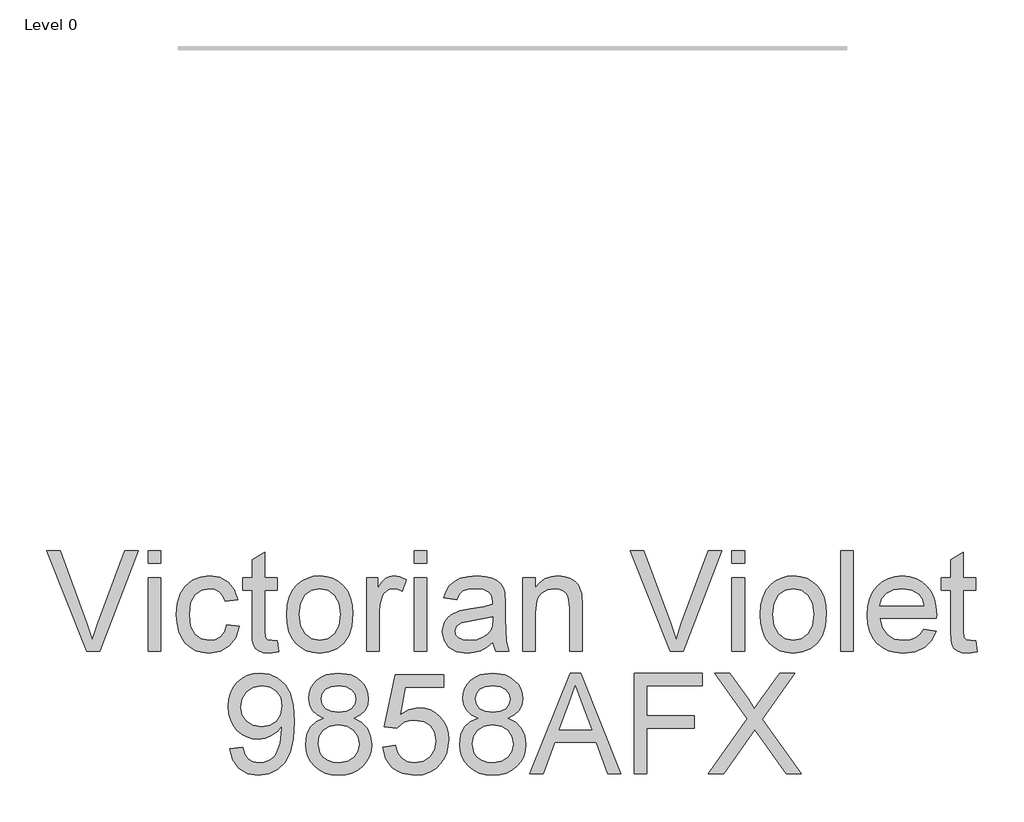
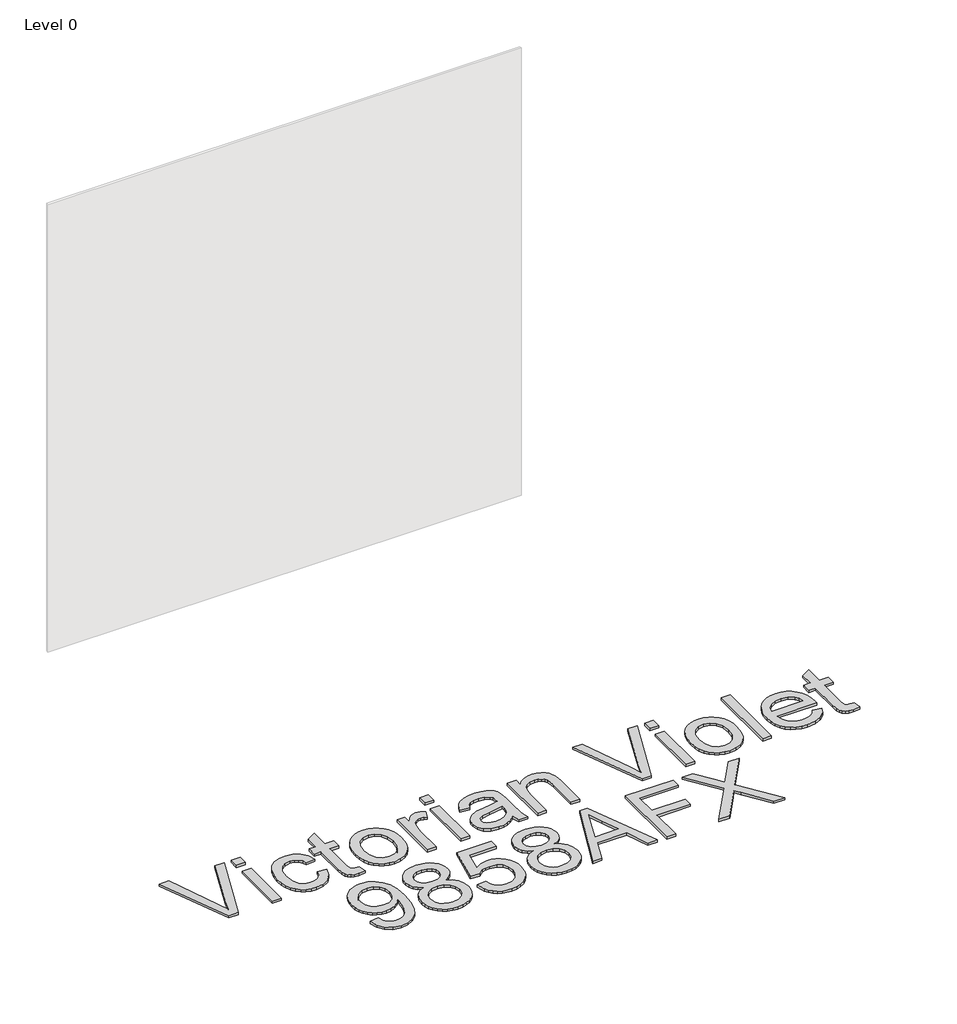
# One storey, part 5 of 10: 1 proxy.
"""IFC4 building model written with IfcOpenShell, lengths in millimetres."""

from ifc_helpers import new_model, si_unit, origin, origin_with_axes, place, context, project, spatial, polyline, outline, extrude, element, save

model = new_model("IFC4")

# Units and contexts
model_context = context("Model", 3, world=origin())
ifc_project = project(units=[si_unit("LENGTHUNIT", "METRE", prefix="MILLI")], contexts=[model_context])

# Site, building, storey
site = spatial("IfcSite", under=ifc_project)
building = spatial("IfcBuilding", under=site)
storey = spatial("IfcBuildingStorey", under=building, Name="Level 0", Elevation=0.0)

# Proxy
placement = place(None, origin())
element("IfcBuildingElementProxy", 1, Name="300mm Arial", ObjectType="300mm Arial", at=placement, inside=storey, context=model_context, shape_type="SweptSolid", body=[
    extrude(outline(polyline([(-724.8541348, -12012.860494), (-844.7836652, -11711.4915635), (-804.4637986, -11711.4915635), (-724.1919472, -11928.6155171), (-707.931563, -11977.5438224), (-691.891908, -11928.6155171), (-611.3993275, -11711.4915635), (-571.0794608, -11711.4915635), (-685.9322197, -12012.860494), (-724.8541348, -12012.860494)])), origin_with_axes(), (0.0, 0.0, 1.0), 10.0),
    extrude(outline(polyline([(-540.7659844, -12012.860494), (-540.7659844, -11791.5426857), (-503.0948681, -11791.5426857), (-503.0948681, -12012.860494), (-540.7659844, -12012.860494)])), origin_with_axes(), (0.0, 0.0, 1.0), 10.0),
    extrude(outline(polyline([(-540.7659844, -11749.1626798), (-540.7659844, -11711.4915635), (-503.0948681, -11711.4915635), (-503.0948681, -11749.1626798), (-540.7659844, -11749.1626798)])), origin_with_axes(), (0.0, 0.0, 1.0), 10.0),
    extrude(outline(polyline([(-305.3215075, -11932.8093718), (-267.6503912, -11937.5182614), (-278.1534222, -11971.0231141), (-297.8902912, -11996.3425924), (-325.0031942, -12012.2626857), (-357.6343272, -12017.5693835), (-378.7622501, -12015.7184772), (-397.7058735, -12010.1657584), (-414.4651977, -12000.9112269), (-429.0402225, -11987.9548829), (-440.8377382, -11971.5404481), (-449.2645352, -11951.9116444), (-454.3206133, -11929.0684718), (-456.0059727, -11903.0109302), (-453.1272961, -11869.4876834), (-444.4912663, -11840.4342028), (-429.9599275, -11816.9725286), (-409.3953239, -11800.2247008), (-384.7932155, -11790.1815223), (-358.149362, -11786.8337961), (-326.3183724, -11791.4323211), (-300.8701354, -11805.2278959), (-282.6139913, -11827.4847566), (-272.3592807, -11857.4671392), (-310.030397, -11862.1760288), (-316.8638051, -11845.7409006), (-327.5047918, -11833.9594797), (-341.364746, -11826.8685543), (-357.8550564, -11824.5049125), (-382.1996474, -11829.1586197), (-401.5226492, -11843.1197414), (-414.1318046, -11867.1424357), (-418.3348564, -11901.9808606), (-414.2237751, -11937.2883351), (-401.8905312, -11961.3938029), (-382.9170173, -11975.2721511), (-358.885126, -11979.8982672), (-339.3781832, -11977.0103936), (-323.3845135, -11968.3467726), (-311.7502454, -11953.6866751), (-305.3215075, -11932.8093718)])), origin_with_axes(), (0.0, 0.0, 1.0), 10.0),
    extrude(outline(polyline([(-154.6370423, -11981.4433716), (-149.9281527, -12013.96414), (-178.1079136, -12017.5693835), (-196.1893136, -12016.005885), (-209.6721888, -12011.3153896), (-219.2003324, -12004.0865084), (-225.4175381, -11994.9078526), (-228.8388407, -11979.1441091), (-229.9792749, -11952.1599648), (-229.9792749, -11829.213802), (-258.2326121, -11829.213802), (-258.2326121, -11791.5426857), (-229.9792749, -11791.5426857), (-229.9792749, -11737.758338), (-192.3081586, -11715.6118419), (-192.3081586, -11791.5426857), (-154.6370423, -11791.5426857), (-154.6370423, -11829.213802), (-192.3081586, -11829.213802), (-192.3081586, -11951.0563188), (-190.3215958, -11970.4804881), (-183.8836609, -11977.3598814), (-171.0445793, -11979.8982672), (-154.6370423, -11981.4433716)])), origin_with_axes(), (0.0, 0.0, 1.0), 10.0),
    extrude(outline(polyline([(-126.383705, -11902.2015898), (-124.3465585, -11873.5389839), (-118.2351189, -11848.8403064), (-108.0493861, -11828.1055575), (-93.7893603, -11811.334737), (-79.4327654, -11800.6155754), (-63.5862485, -11792.9590314), (-46.2498094, -11788.3651049), (-27.4234483, -11786.8337961), (-6.6404149, -11788.698498), (12.1514573, -11794.2926036), (28.9521682, -11803.6161129), (43.7617177, -11816.669026), (55.8489405, -11833.0098843), (64.4826711, -11852.1972296), (69.6629094, -11874.2310619), (71.3896556, -11899.1113811), (68.336235, -11937.1687735), (59.1759733, -11966.1394806), (44.175585, -11987.8353213), (23.6017844, -12004.0681143), (-0.8347771, -12014.1940662), (-27.4234483, -12017.5693835), (-48.5099845, -12015.7115794), (-67.4766006, -12010.1381672), (-84.3232967, -12000.8491468), (-99.0500728, -11987.8445183), (-111.0085369, -11971.3450108), (-119.550297, -11951.5713536), (-124.675353, -11928.5235466), (-126.383705, -11902.2015898)]), holes=[polyline([(-88.7125887, -11902.1280134), (-84.3531871, -11936.2214773), (-71.2749822, -11960.5108861), (-51.5932954, -11975.0514219), (-27.4234483, -11979.8982672), (-3.3639659, -11975.0238308), (16.2809327, -11960.4005215), (29.3591376, -11935.789216), (33.7185393, -11900.950791), (29.3315465, -11867.8506085), (16.1705681, -11843.8922936), (-3.5019216, -11829.3517577), (-27.4234483, -11824.5049125), (-51.5932954, -11829.3333636), (-71.2749822, -11843.8187172), (-84.3531871, -11868.0529436), (-88.7125887, -11902.1280134)])]), origin_with_axes(), (0.0, 0.0, 1.0), 10.0),
    extrude(outline(polyline([(113.7696614, -12012.860494), (113.7696614, -11791.5426857), (146.7318882, -11791.5426857), (146.7318882, -11824.2841833), (158.9087822, -11805.3014723), (170.1291831, -11794.1178596), (181.3863721, -11788.654812), (193.6736308, -11786.8337961), (212.4356125, -11789.7400639), (231.4918999, -11798.4588672), (218.9103356, -11832.2304343), (205.6665838, -11826.4362929), (192.422832, -11824.5049125), (181.17484, -11826.3627165), (171.1224645, -11831.9361288), (163.0014694, -11840.8020848), (157.5476188, -11852.5375205), (152.967488, -11873.5803706), (151.4407777, -11896.5362071), (151.4407777, -12012.860494), (113.7696614, -12012.860494)])), origin_with_axes(), (0.0, 0.0, 1.0), 10.0),
    extrude(outline(polyline([(255.0363476, -11749.1626798), (255.0363476, -11711.4915635), (292.7074639, -11711.4915635), (292.7074639, -11749.1626798), (255.0363476, -11749.1626798)])), origin_with_axes(), (0.0, 0.0, 1.0), 10.0),
    extrude(outline(polyline([(255.0363476, -12012.860494), (255.0363476, -11791.5426857), (292.7074639, -11791.5426857), (292.7074639, -12012.860494), (255.0363476, -12012.860494)])), origin_with_axes(), (0.0, 0.0, 1.0), 10.0),
    extrude(outline(polyline([(490.4808245, -11984.6071568), (472.4821979, -12000.0398064), (453.9501423, -12010.1381672), (434.4615936, -12015.7115794), (413.5934875, -12017.5693835), (382.1119857, -12013.0996173), (358.8894348, -11999.6903186), (344.5696281, -11979.3280501), (339.7963592, -11953.9993748), (341.598981, -11938.3827841), (347.0068463, -11924.2009331), (355.3485706, -11912.0608273), (365.9527691, -11902.5694718), (392.3299082, -11890.2086368), (424.9242529, -11884.5432541), (463.4414978, -11878.5835657), (490.2600953, -11871.5938078), (490.4808245, -11863.2060983), (487.8872564, -11846.3938912), (480.1065522, -11835.3942195), (462.7057338, -11827.2272392), (438.4623103, -11824.5049125), (416.0215086, -11826.3167313), (400.3497356, -11831.7521878), (389.6627637, -11841.8045633), (382.1763651, -11857.4671392), (344.5052488, -11852.7582497), (351.0443512, -11832.156858), (360.8024212, -11815.9700502), (374.6899665, -11803.590821), (393.6174951, -11794.4121652), (416.7664697, -11788.7283884), (443.3183527, -11786.8337961), (468.7849838, -11788.5076592), (488.9725083, -11793.5292485), (504.1936258, -11801.0800264), (514.7610361, -11810.3414556), (521.7691882, -11821.7917827), (526.3125308, -11835.9092543), (528.1519408, -11868.8714811), (528.1519408, -11915.7396473), (530.0649271, -11981.1858542), (537.5697198, -12012.860494), (499.8986035, -12012.860494), (490.4808245, -11984.6071568)]), holes=[polyline([(490.4808245, -11909.2649241), (429.7067189, -11920.8164188), (397.2963151, -11926.9232599), (382.6178235, -11936.8560738), (377.4674755, -11951.3506244), (380.2725758, -11962.5526311), (388.6878764, -11971.7312869), (402.5294365, -11977.8565221), (421.613315, -11979.8982672), (441.8468247, -11977.64499), (459.7258897, -11970.8851583), (474.2204403, -11960.9247533), (484.3004069, -11949.069756), (488.7701732, -11936.8560738), (490.2600953, -11919.933502), (490.4808245, -11909.2649241)])]), origin_with_axes(), (0.0, 0.0, 1.0), 10.0),
    extrude(outline(polyline([(579.9497257, -12012.860494), (579.9497257, -11791.5426857), (617.620842, -11791.5426857), (617.620842, -11822.4447733), (630.708244, -11806.8649708), (646.4260022, -11795.7365404), (664.7741167, -11789.0594822), (685.7525875, -11786.8337961), (704.3214312, -11788.6272209), (721.3267764, -11794.0074951), (735.5086274, -11802.303234), (745.6069881, -11812.8430532), (756.9009654, -11840.5445674), (758.8875281, -11876.964885), (758.8875281, -12012.860494), (721.2164118, -12012.860494), (721.2164118, -11882.0416565), (716.8754043, -11848.7115477), (710.8697307, -11838.7879309), (701.5347251, -11831.0900002), (689.5693632, -11826.1511844), (675.6726208, -11824.5049125), (653.6088982, -11828.2021265), (634.8009312, -11839.2937687), (627.2846422, -11848.3482643), (621.9158643, -11860.7228949), (617.620842, -11895.4325611), (617.620842, -12012.860494), (579.9497257, -12012.860494)])), origin_with_axes(), (0.0, 0.0, 1.0), 10.0),
    extrude(outline(polyline([(1022.1438839, -12012.860494), (902.2143535, -11711.4915635), (942.5342201, -11711.4915635), (1022.8060715, -11928.6155171), (1039.0664557, -11977.5438224), (1055.1061107, -11928.6155171), (1135.5986912, -11711.4915635), (1175.9185579, -11711.4915635), (1061.065799, -12012.860494), (1022.1438839, -12012.860494)])), origin_with_axes(), (0.0, 0.0, 1.0), 10.0),
    extrude(outline(polyline([(1206.2320343, -11749.1626798), (1206.2320343, -11711.4915635), (1243.9031506, -11711.4915635), (1243.9031506, -11749.1626798), (1206.2320343, -11749.1626798)])), origin_with_axes(), (0.0, 0.0, 1.0), 10.0),
    extrude(outline(polyline([(1206.2320343, -12012.860494), (1206.2320343, -11791.5426857), (1243.9031506, -11791.5426857), (1243.9031506, -12012.860494), (1206.2320343, -12012.860494)])), origin_with_axes(), (0.0, 0.0, 1.0), 10.0),
    extrude(outline(polyline([(1290.992046, -11902.2015898), (1293.0291925, -11873.5389839), (1299.1406322, -11848.8403064), (1309.3263649, -11828.1055575), (1323.5863907, -11811.334737), (1337.9429856, -11800.6155754), (1353.7895025, -11792.9590314), (1371.1259416, -11788.3651049), (1389.9523027, -11786.8337961), (1410.7353361, -11788.698498), (1429.5272083, -11794.2926036), (1446.3279192, -11803.6161129), (1461.1374687, -11816.669026), (1473.2246915, -11833.0098843), (1481.8584221, -11852.1972296), (1487.0386605, -11874.2310619), (1488.7654066, -11899.1113811), (1485.711986, -11937.1687735), (1476.5517243, -11966.1394806), (1461.551336, -11987.8353213), (1440.9775354, -12004.0681143), (1416.5409739, -12014.1940662), (1389.9523027, -12017.5693835), (1368.8657666, -12015.7115794), (1349.8991504, -12010.1381672), (1333.0524543, -12000.8491468), (1318.3256782, -11987.8445183), (1306.3672141, -11971.3450108), (1297.825454, -11951.5713536), (1292.700398, -11928.5235466), (1290.992046, -11902.2015898)]), holes=[polyline([(1328.6631623, -11902.1280134), (1333.0225639, -11936.2214773), (1346.1007688, -11960.5108861), (1365.7824556, -11975.0514219), (1389.9523027, -11979.8982672), (1414.0117852, -11975.0238308), (1433.6566837, -11960.4005215), (1446.7348886, -11935.789216), (1451.0942903, -11900.950791), (1446.7072975, -11867.8506085), (1433.5463191, -11843.8922936), (1413.8738294, -11829.3517577), (1389.9523027, -11824.5049125), (1365.7824556, -11829.3333636), (1346.1007688, -11843.8187172), (1333.0225639, -11868.0529436), (1328.6631623, -11902.1280134)])]), origin_with_axes(), (0.0, 0.0, 1.0), 10.0),
    extrude(outline(polyline([(1531.1454124, -12012.860494), (1531.1454124, -11711.4915635), (1568.8165287, -11711.4915635), (1568.8165287, -12012.860494), (1531.1454124, -12012.860494)])), origin_with_axes(), (0.0, 0.0, 1.0), 10.0),
    extrude(outline(polyline([(1780.2750996, -11946.9360404), (1817.2104519, -11951.64493), (1803.9023207, -11979.4752029), (1782.6663325, -12000.2789297), (1753.9807339, -12013.2467701), (1718.3237716, -12017.5693835), (1694.9494693, -12015.7046817), (1674.1227498, -12010.1105761), (1655.8436132, -12000.7870668), (1640.1120594, -11987.7341537), (1627.4615173, -11971.3151204), (1618.4254158, -11951.8932503), (1613.0037549, -11929.4685435), (1611.1965346, -11904.0409998), (1613.022149, -11877.7512327), (1618.4989922, -11854.5792656), (1627.6270642, -11834.5250983), (1640.406365, -11817.5887309), (1656.0965321, -11804.133447), (1673.9572029, -11794.5225298), (1693.9883776, -11788.7559796), (1716.190056, -11786.8337961), (1737.6766638, -11788.751381), (1757.1077309, -11794.5041357), (1774.4832574, -11804.0920602), (1789.8032432, -11817.5151545), (1802.3089318, -11834.4147337), (1811.2415665, -11854.4321128), (1816.6011473, -11877.5672917), (1818.3876743, -11903.8202706), (1818.1669451, -11913.9738137), (1648.8676509, -11913.9738137), (1655.3883592, -11942.1719686), (1670.5359004, -11962.902119), (1692.397288, -11975.6492302), (1719.0595356, -11979.8982672), (1739.1091043, -11977.9300985), (1755.9948879, -11972.0255925), (1769.7168863, -11961.8168672), (1780.2750996, -11946.9360404)]), holes=[polyline([(1648.8676509, -11876.3026974), (1780.7165579, -11876.3026974), (1775.6213923, -11856.4002814), (1765.6333961, -11842.1632482), (1743.670841, -11828.9194964), (1716.0429032, -11824.5049125), (1690.6498485, -11828.0273826), (1669.6529836, -11838.5947929), (1655.0572654, -11855.0667092), (1648.8676509, -11876.3026974)])]), origin_with_axes(), (0.0, 0.0, 1.0), 10.0),
    extrude(outline(polyline([(1936.1099127, -11981.4433716), (1940.8188022, -12013.96414), (1912.6390414, -12017.5693835), (1894.5576414, -12016.005885), (1881.0747662, -12011.3153896), (1871.5466226, -12004.0865084), (1865.3294168, -11994.9078526), (1861.9081143, -11979.1441091), (1860.7676801, -11952.1599648), (1860.7676801, -11829.213802), (1832.5143429, -11829.213802), (1832.5143429, -11791.5426857), (1860.7676801, -11791.5426857), (1860.7676801, -11737.758338), (1898.4387964, -11715.6118419), (1898.4387964, -11791.5426857), (1936.1099127, -11791.5426857), (1936.1099127, -11829.213802), (1898.4387964, -11829.213802), (1898.4387964, -11951.0563188), (1900.4253592, -11970.4804881), (1906.8632941, -11977.3598814), (1919.7023757, -11979.8982672), (1936.1099127, -11981.4433716)])), origin_with_axes(), (0.0, 0.0, 1.0), 10.0),
    extrude(outline(polyline([(-295.9037284, -12303.4427149), (-258.2326121, -12298.7338254), (-251.7946772, -12320.1169663), (-241.3100403, -12334.6758963), (-227.0362189, -12343.0360146), (-209.2307304, -12345.8227207), (-193.2554547, -12344.029296), (-178.733313, -12338.6490218), (-166.6667835, -12330.2705094), (-158.0583448, -12319.4823699), (-145.734298, -12286.7408723), (-140.2896445, -12243.0364913), (-140.5103737, -12235.6788514), (-153.5609874, -12251.6081418), (-170.6399091, -12264.2264942), (-190.5147339, -12272.4486568), (-211.9530571, -12275.1893777), (-229.8482169, -12273.5155146), (-246.3040384, -12268.4939254), (-261.3205216, -12260.12461), (-274.8976665, -12248.4075684), (-286.1479578, -12233.9544045), (-294.1838801, -12217.3767221), (-299.0054335, -12198.6745212), (-300.612618, -12177.8478018), (-298.9272586, -12156.326705), (-293.8711804, -12137.0129003), (-285.4443835, -12119.9063875), (-273.6468677, -12105.0071667), (-259.3109662, -12092.9360387), (-243.269012, -12084.3138045), (-225.521005, -12079.1404639), (-206.0669452, -12077.4160171), (-177.9699578, -12081.3523544), (-152.3929621, -12093.1613665), (-131.0006241, -12112.254442), (-115.4576098, -12138.0429699), (-105.9938455, -12173.6907352), (-102.8392574, -12222.3615232), (-105.9846484, -12273.96617), (-115.4208216, -12313.8537754), (-131.0650034, -12343.8269609), (-152.8344205, -12365.6883485), (-179.7909737, -12379.0424649), (-210.9965639, -12383.4938371), (-243.2046326, -12378.2423216), (-268.90119, -12362.4877751), (-286.8722254, -12337.2234791), (-295.9037284, -12303.4427149)]), holes=[polyline([(-140.5103737, -12176.964885), (-144.5754697, -12151.4338745), (-156.7707578, -12131.788976), (-175.6982865, -12119.262594), (-199.9601041, -12115.0871334), (-225.1232326, -12119.5844908), (-245.2831659, -12133.0765629), (-258.5269177, -12153.7239399), (-262.9415017, -12179.6872117), (-258.766041, -12202.964945), (-246.2396591, -12221.4418182), (-226.5763664, -12233.4991506), (-200.9901737, -12237.5182614), (-176.9214941, -12233.4991506), (-157.54331, -12221.4418182), (-144.7686078, -12202.2843633), (-140.5103737, -12176.964885)])]), origin_with_axes(), (0.0, 0.0, 1.0), 10.0),
    extrude(outline(polyline([(-14.9890369, -12212.7965913), (-35.1581673, -12202.8637774), (-49.3124271, -12189.3992964), (-57.6725454, -12172.6790597), (-60.4592515, -12152.9789789), (-58.9417383, -12137.6153071), (-54.3891986, -12123.5300252), (-46.8016324, -12110.7231332), (-36.1790398, -12099.1946312), (-23.031857, -12089.6664875), (-7.8705203, -12082.8606706), (28.4946149, -12077.4160171), (65.0804793, -12082.9894293), (80.407363, -12089.9561946), (93.7568809, -12099.709666), (104.5726115, -12111.4634957), (112.2981334, -12124.4313361), (116.9334466, -12138.613187), (118.4785509, -12154.0090485), (115.728633, -12173.0745329), (107.4788793, -12189.509661), (93.6373192, -12202.8913686), (74.1119823, -12212.7965913), (97.2977451, -12224.7435591), (114.1743316, -12242.3375155), (124.4658304, -12264.732332), (127.89633, -12291.0818799), (126.1948758, -12309.8714528), (121.0905131, -12327.0975272), (112.583242, -12342.7601031), (100.6730624, -12356.8591806), (85.9853737, -12368.5118428), (69.1455754, -12376.8351729), (50.1536674, -12381.829171), (29.0096497, -12383.4938371), (7.865632, -12381.8222732), (-11.126276, -12376.8075818), (-27.9660743, -12368.4497627), (-42.6537629, -12356.748816), (-54.5639425, -12342.5508703), (-63.0712137, -12326.702054), (-68.1755764, -12309.2023674), (-69.8770306, -12290.0518103), (-66.3085752, -12262.6813898), (-55.6032092, -12240.1670117), (-38.3127554, -12223.2812282), (-14.9890369, -12212.7965913)]), holes=[polyline([(-22.7881352, -12154.0826249), (-19.4496061, -12170.52695), (-9.4340188, -12183.6603373), (6.9643212, -12192.268776), (29.4511081, -12195.1382555), (51.4136632, -12192.2871701), (67.5636828, -12183.7339137), (77.4964967, -12171.0419848), (80.8074346, -12155.774882), (77.3861321, -12139.9283651), (67.1222244, -12126.822569), (50.7514756, -12118.0209923), (29.0096497, -12115.0871334), (7.1298681, -12117.9566129), (-9.2132896, -12126.5650516), (-19.3944238, -12139.1834041), (-22.7881352, -12154.0826249)]), polyline([(-32.2059143, -12288.7274351), (-25.9151322, -12317.0911369), (-17.2055259, -12329.2588339), (-3.6582715, -12338.317928), (12.5653245, -12343.9465226), (29.3039553, -12345.8227207), (54.9453304, -12341.8771864), (74.1855587, -12330.0405832), (86.2153, -12312.1155329), (90.2252137, -12289.9046575), (86.0865413, -12267.316703), (73.6705239, -12248.9961796), (53.9888372, -12236.8560738), (28.0531565, -12232.8093718), (2.7704664, -12236.8008915), (-16.2766239, -12248.7754504), (-28.2235917, -12266.7464859), (-32.2059143, -12288.7274351)])]), origin_with_axes(), (0.0, 0.0, 1.0), 10.0),
    extrude(outline(polyline([(160.8585568, -12298.7338254), (198.5296731, -12294.0249358), (205.4458546, -12316.6404815), (217.512384, -12332.8364863), (234.6740791, -12342.5761621), (256.8757575, -12345.8227207), (283.878296, -12341.3069693), (304.1118057, -12327.7597148), (316.7485522, -12306.7444558), (320.9608011, -12279.8246908), (317.0152667, -12254.4776213), (305.1786635, -12235.0902402), (285.359021, -12222.7845875), (257.4643687, -12218.6827032), (239.1898306, -12220.3197781), (224.3917774, -12225.2310027), (203.2385626, -12242.2271509), (165.5674463, -12237.5182614), (198.5296731, -12082.1249066), (344.5052488, -12082.1249066), (344.5052488, -12119.7960229), (228.9903023, -12119.7960229), (212.8770709, -12202.790201), (239.7876389, -12186.4562404), (267.9857938, -12181.0115869), (286.331609, -12182.6992456), (303.1829037, -12187.7622215), (318.5396777, -12196.2005148), (332.4019311, -12208.0141254), (343.8775501, -12222.4810848), (352.0744208, -12238.8794248), (356.9925433, -12257.2091452), (358.6319174, -12277.470246), (352.7274114, -12315.1413624), (345.3467788, -12331.9351754), (335.0138933, -12347.3678251), (319.3605144, -12363.1729553), (301.0951733, -12374.4623341), (280.2178701, -12381.2359613), (256.7286047, -12383.4938371), (219.7288731, -12377.6904986), (204.0502023, -12370.4363255), (190.2523282, -12360.2804832), (178.7721107, -12347.7288093), (170.0464096, -12333.2871418), (160.8585568, -12298.7338254)])), origin_with_axes(), (0.0, 0.0, 1.0), 10.0),
    extrude(outline(polyline([(446.4821378, -12212.7965913), (426.3130075, -12202.8637774), (412.1587477, -12189.3992964), (403.7986294, -12172.6790597), (401.0119232, -12152.9789789), (402.5294365, -12137.6153071), (407.0819762, -12123.5300252), (414.6695423, -12110.7231332), (425.2921349, -12099.1946312), (438.4393177, -12089.6664875), (453.6006544, -12082.8606706), (489.9657897, -12077.4160171), (526.5516541, -12082.9894293), (541.8785377, -12089.9561946), (555.2280556, -12099.709666), (566.0437863, -12111.4634957), (573.7693082, -12124.4313361), (578.4046213, -12138.613187), (579.9497257, -12154.0090485), (577.1998078, -12173.0745329), (568.950054, -12189.509661), (555.108494, -12202.8913686), (535.5831571, -12212.7965913), (558.7689198, -12224.7435591), (575.6455063, -12242.3375155), (585.9370052, -12264.732332), (589.3675048, -12291.0818799), (587.6660505, -12309.8714528), (582.5616879, -12327.0975272), (574.0544167, -12342.7601031), (562.1442371, -12356.8591806), (547.4565485, -12368.5118428), (530.6167501, -12376.8351729), (511.6248421, -12381.829171), (490.4808245, -12383.4938371), (469.3368068, -12381.8222732), (450.3448988, -12376.8075818), (433.5051005, -12368.4497627), (418.8174118, -12356.748816), (406.9072322, -12342.5508703), (398.3999611, -12326.702054), (393.2955984, -12309.2023674), (391.5941442, -12290.0518103), (395.1625995, -12262.6813898), (405.8679656, -12240.1670117), (423.1584193, -12223.2812282), (446.4821378, -12212.7965913)]), holes=[polyline([(438.6830395, -12154.0826249), (442.0215686, -12170.52695), (452.037156, -12183.6603373), (468.4354959, -12192.268776), (490.9222829, -12195.1382555), (512.884838, -12192.2871701), (529.0348576, -12183.7339137), (538.9676714, -12171.0419848), (542.2786094, -12155.774882), (538.8573068, -12139.9283651), (528.5933992, -12126.822569), (512.2226504, -12118.0209923), (490.4808245, -12115.0871334), (468.6010428, -12117.9566129), (452.2578852, -12126.5650516), (442.0767509, -12139.1834041), (438.6830395, -12154.0826249)]), polyline([(429.2652605, -12288.7274351), (435.5560426, -12317.0911369), (444.2656488, -12329.2588339), (457.8129033, -12338.317928), (474.0364993, -12343.9465226), (490.7751301, -12345.8227207), (516.4165051, -12341.8771864), (535.6567335, -12330.0405832), (547.6864747, -12312.1155329), (551.6963885, -12289.9046575), (547.557716, -12267.316703), (535.1416987, -12248.9961796), (515.4600119, -12236.8560738), (489.5243313, -12232.8093718), (464.2416412, -12236.8008915), (445.1945509, -12248.7754504), (433.2475831, -12266.7464859), (429.2652605, -12288.7274351)])]), origin_with_axes(), (0.0, 0.0, 1.0), 10.0),
    extrude(outline(polyline([(601.3604578, -12378.7849475), (721.6578702, -12077.4160171), (753.7371802, -12077.4160171), (874.0345926, -12378.7849475), (834.2297608, -12378.7849475), (799.7224296, -12284.6071568), (675.5990444, -12284.6071568), (641.1652897, -12378.7849475), (601.3604578, -12378.7849475)]), holes=[polyline([(689.4314075, -12246.9360404), (785.963643, -12246.9360404), (758.8139517, -12172.8446066), (737.6975252, -12115.0871334), (718.9355435, -12166.3698835), (689.4314075, -12246.9360404)])]), origin_with_axes(), (0.0, 0.0, 1.0), 10.0),
    extrude(outline(polyline([(914.2808829, -12378.7849475), (914.2808829, -12077.4160171), (1116.7631331, -12077.4160171), (1116.7631331, -12115.0871334), (951.9519992, -12115.0871334), (951.9519992, -12204.5560346), (1093.2186854, -12204.5560346), (1093.2186854, -12242.2271509), (951.9519992, -12242.2271509), (951.9519992, -12378.7849475), (914.2808829, -12378.7849475)])), origin_with_axes(), (0.0, 0.0, 1.0), 10.0),
    extrude(outline(polyline([(1135.5986912, -12378.7849475), (1251.7758253, -12214.5624249), (1154.4342494, -12077.4160171), (1199.6101584, -12077.4160171), (1254.4245756, -12154.5976597), (1272.8922518, -12184.6904069), (1294.5237131, -12154.0826249), (1348.7495192, -12077.4160171), (1394.5876158, -12077.4160171), (1297.2460399, -12215.0038833), (1413.423174, -12378.7849475), (1368.247265, -12378.7849475), (1290.8448932, -12269.5975713), (1274.7316618, -12246.9360404), (1256.9997496, -12271.8048633), (1181.4367878, -12378.7849475), (1135.5986912, -12378.7849475)])), origin_with_axes(), (0.0, 0.0, 1.0), 10.0),
])

save(model, "model.ifc")
